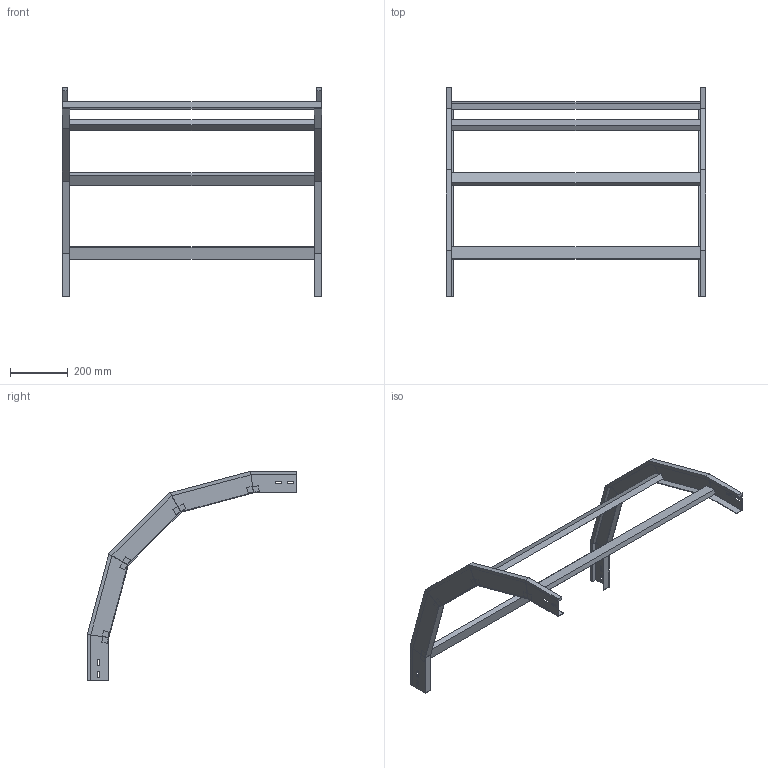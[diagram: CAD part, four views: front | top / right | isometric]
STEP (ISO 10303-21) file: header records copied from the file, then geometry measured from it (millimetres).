
FILE_DESCRIPTION (( 'STEP AP214' ), '1' );
FILE_NAME ('33B5C900.step', '2025-02-21T15:05:16', ( '' ), ( '' ), 'SwSTEP 2.0', 'SolidWorks 2023', '' );
FILE_SCHEMA (( 'AUTOMOTIVE_DESIGN' ));
Length unit declared in the file: millimetre
Products named in the file (3): LONGH.DISCESA_90°_H75_R500; TRAVERSINO_900; 33B5C900
Assembly tree (6 placements, depth 2):
  33B5C900
    LONGH.DISCESA_90°_H75_R500  x2
    TRAVERSINO_900  x4
Bounding box: 900 x 725.35 x 725.35 mm (x, y, z)
Volume: 3805437.3 mm3; surface area: 974200 mm2
Topology: 6 solids, 6 shells, 140 faces, 320 edges, 192 vertices
Faces by surface type: plane 140
Entity records: 1872 total; most frequent: CARTESIAN_POINT 309, ORIENTED_EDGE 296, DIRECTION 294, EDGE_CURVE 148, VECTOR 148, LINE 148, VERTEX_POINT 88, AXIS2_PLACEMENT_3D 73
